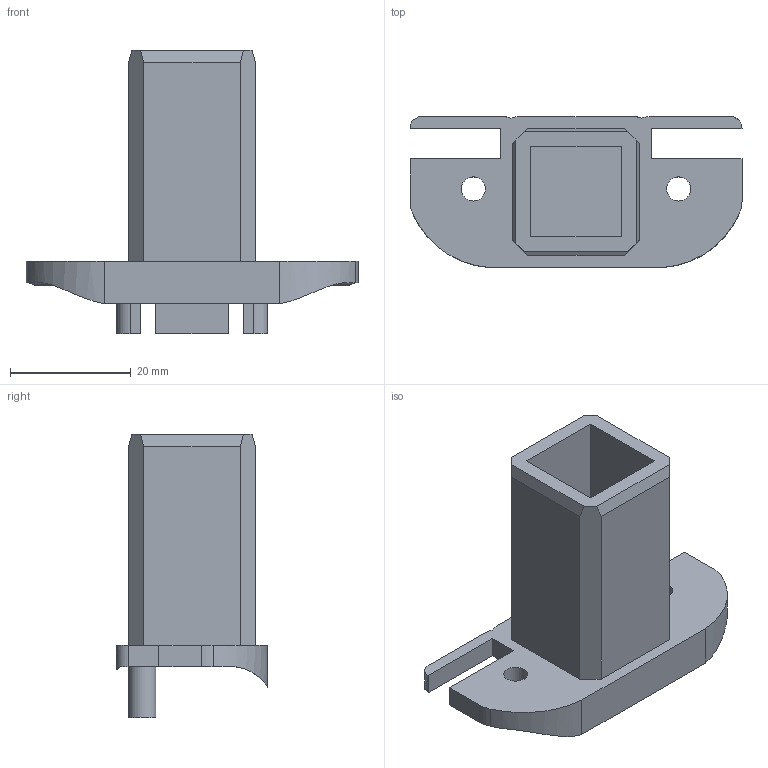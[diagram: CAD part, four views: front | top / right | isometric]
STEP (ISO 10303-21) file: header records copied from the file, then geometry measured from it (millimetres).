
FILE_DESCRIPTION (( 'STEP AP214' ), '1' );
FILE_NAME ('L15843.step', '2024-12-03T16:19:53', ( '' ), ( '' ), 'SwSTEP 2.0', 'SolidWorks 2023', '' );
FILE_SCHEMA (( 'AUTOMOTIVE_DESIGN' ));
Length unit declared in the file: millimetre
Products named in the file (1): L15843
Bounding box: 55 x 25 x 47 mm (x, y, z)
Volume: 14238.2 mm3; surface area: 8018.1 mm2
Topology: 1 solids, 1 shells, 61 faces, 168 edges, 112 vertices
Faces by surface type: plane 45, cylinder 16
Full cylindrical faces by diameter (mm): 4 x2
Entity records: 1987 total; most frequent: CARTESIAN_POINT 408, ORIENTED_EDGE 328, DIRECTION 306, EDGE_CURVE 164, LINE 130, VECTOR 130, VERTEX_POINT 110, AXIS2_PLACEMENT_3D 88
